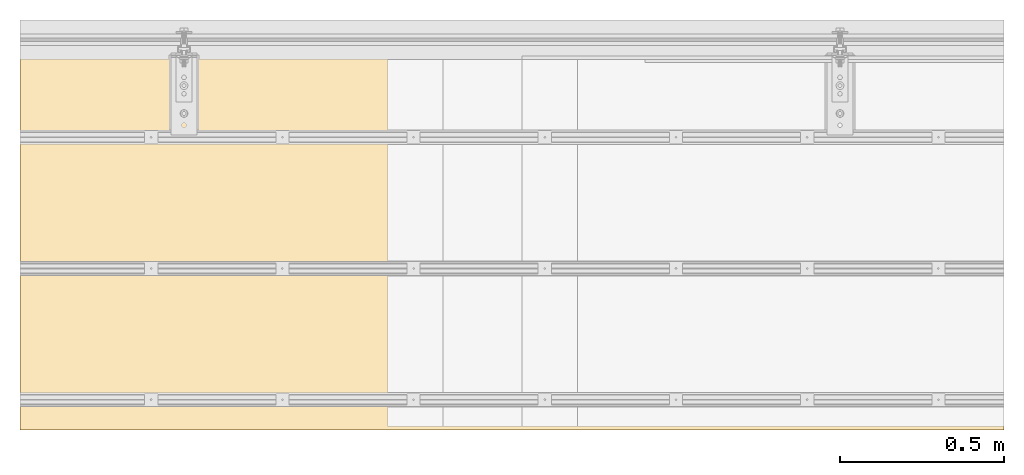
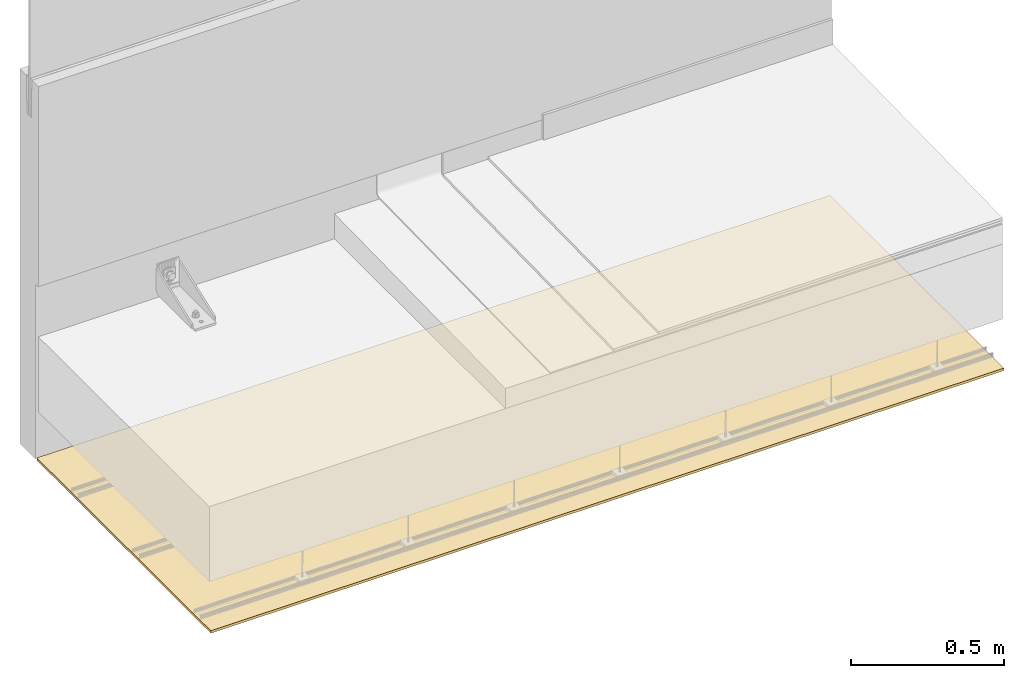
# One storey, part 6 of 8: 1 covering.
"""IFC2X3 building model written with IfcOpenShell, lengths in metres."""

from ifc_helpers import new_model, entity, si_unit, converted_unit, derived_unit, direction, frame, frame_2d, origin, place, context, subcontext, project, spatial, rectangle, extrude, material, layer, layer_set, layer_usage, type_object, element, save


model = new_model("IFC2X3")

# Units and contexts
model_context = context("Model", 3, precision=1e-05, world=origin(), true_north=direction((6.123031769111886e-17, 1.0)))
body_context = subcontext(model_context, "Body", "Model", "MODEL_VIEW")
ifc_project = project(units=[si_unit("LENGTHUNIT", "METRE"), si_unit("AREAUNIT", "SQUARE_METRE"), converted_unit("PLANEANGLEUNIT", "DEGREE", entity("IfcPlaneAngleMeasure", 0.017453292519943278), si_unit("PLANEANGLEUNIT", "RADIAN"), dimensions=[0, 0, 0, 0, 0, 0, 0]), si_unit("VOLUMEUNIT", "CUBIC_METRE"), derived_unit("THERMALTRANSMITTANCEUNIT", [(si_unit("MASSUNIT", "GRAM", prefix="KILO"), 1), (si_unit("THERMODYNAMICTEMPERATUREUNIT", "KELVIN"), -1), (si_unit("TIMEUNIT", "SECOND"), -3)]), derived_unit("USERDEFINED", [(si_unit("MASSUNIT", "GRAM", prefix="KILO"), 1), (si_unit("THERMODYNAMICTEMPERATUREUNIT", "KELVIN"), -1), (si_unit("TIMEUNIT", "SECOND"), -2)]), derived_unit("THERMALRESISTANCEUNIT", [(si_unit("MASSUNIT", "GRAM", prefix="KILO"), -1), (si_unit("TIMEUNIT", "SECOND"), 3), (si_unit("THERMODYNAMICTEMPERATUREUNIT", "KELVIN"), 1)]), si_unit("PRESSUREUNIT", "PASCAL"), derived_unit("MASSDENSITYUNIT", [(si_unit("MASSUNIT", "GRAM", prefix="KILO"), 1), (si_unit("LENGTHUNIT", "METRE"), -3)]), derived_unit("VAPORPERMEABILITYUNIT", [(si_unit("LENGTHUNIT", "METRE"), -1), (si_unit("TIMEUNIT", "SECOND"), 1)]), derived_unit("USERDEFINED", [(si_unit("MASSUNIT", "GRAM", prefix="KILO"), 1), (si_unit("TIMEUNIT", "SECOND"), -3), (si_unit("LENGTHUNIT", "METRE"), 3), (si_unit("ELECTRICCURRENTUNIT", "AMPERE"), -2)])], contexts=[model_context])

# Site, building, storey
site_placement = place(None, origin())
site = spatial("IfcSite", under=ifc_project, at=site_placement, Name="Default", CompositionType="ELEMENT")
building_placement = place(site_placement, origin())
building = spatial("IfcBuilding", under=site, at=building_placement, CompositionType="ELEMENT")
storey_placement = place(building_placement, origin())
storey = spatial("IfcBuildingStorey", under=building, at=storey_placement, Name="L0", CompositionType="ELEMENT", Elevation=0.0)

# Covering
ifc_material = material(Name="Enlucido")
ifc_layer = layer(ifc_material, 0.01)
ifc_layer_set = layer_set([ifc_layer], Name="Techo compuesto:Placa")
ifc_layer_usage = layer_usage(ifc_layer_set, "AXIS3", "NEGATIVE", 0.01)
covering_type = type_object("IfcCoveringType", Name="Techo compuesto:Placa", PredefinedType="CEILING")
covering_placement = place(storey_placement, frame((4.887720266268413, 14.784530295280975, -0.49999999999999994)))
element("IfcCovering", 1, at=covering_placement, inside=storey, type_object=covering_type, material=ifc_layer_usage, Name="Techo compuesto:Placa", ObjectType="Techo compuesto:Placa", PredefinedType="CEILING", context=body_context, shape_type="SweptSolid", body=[
    extrude(rectangle(XDim=1.1400000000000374, YDim=2.999999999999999, at=frame_2d((1.0547118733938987e-15, 5.551115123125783e-16), x_axis=(1.0, 0.0))), frame((1.4999999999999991, 0.5700000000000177, 0.0), z_axis=(0.0, 0.0, 1.0), x_axis=(0.0, 1.0, 0.0)), (0.0, 0.0, 1.0), 0.010000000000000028),
])

save(model, "model.ifc")
